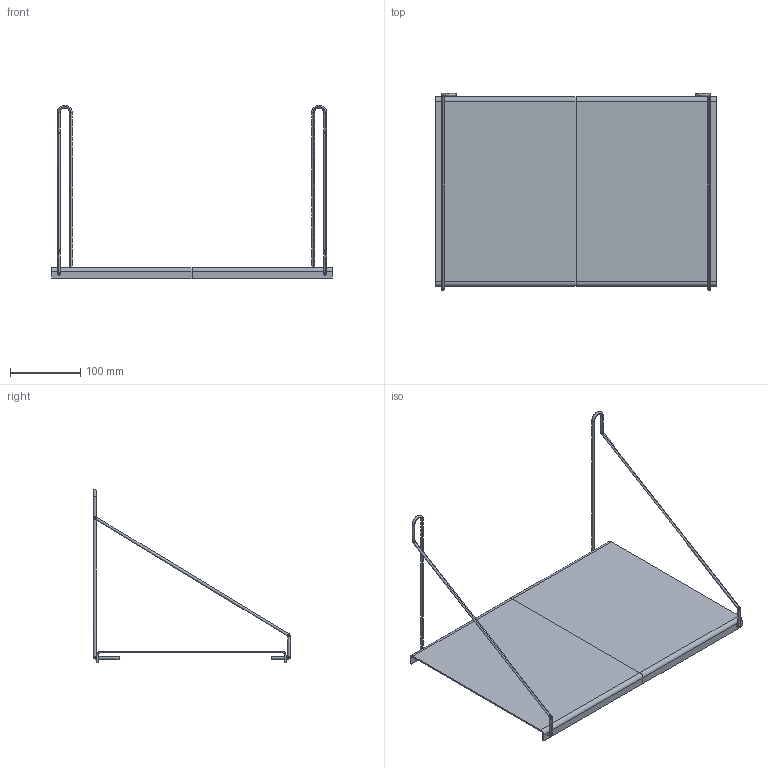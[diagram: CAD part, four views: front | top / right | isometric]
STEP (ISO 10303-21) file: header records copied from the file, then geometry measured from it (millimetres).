
FILE_DESCRIPTION(/* description */ (''),/* implementation_level */ '2;1');
FILE_NAME(/* name */ 'FRAMA_Shelf_Library_Single_Shelf_27x40_3D_File',/* time_stamp */ '2023-05-26T10:10:41+02:00',/* author */ (''),/* organization */ (''),/* preprocessor_version */ 'ST-DEVELOPER v16.5',/* originating_system */ 'Rhino 7.29',/* authorisation */ '');
FILE_SCHEMA (('CONFIG_CONTROL_DESIGN'));
Length unit declared in the file: millimetre
Products named in the file (1): Document
Bounding box: 400 x 281.31 x 247.48 mm (x, y, z)
Volume: 8929.7 mm3; surface area: 257759.9 mm2
Topology: 6 solids, 13 shells, 492 faces, 1283 edges, 815 vertices
Faces by surface type: cylinder 298, bspline 150, plane 44
Entity records: 23347 total; most frequent: CARTESIAN_POINT 15455, ORIENTED_EDGE 2514, EDGE_CURVE 1278, VERTEX_POINT 805, B_SPLINE_CURVE_WITH_KNOTS 634, EDGE_LOOP 504, ADVANCED_FACE 492, FACE_OUTER_BOUND 492
